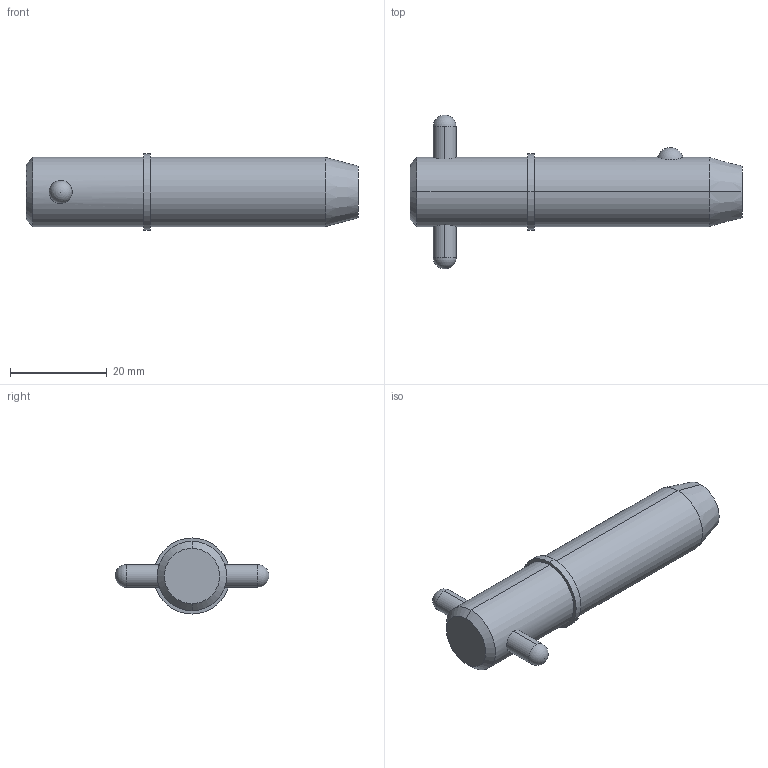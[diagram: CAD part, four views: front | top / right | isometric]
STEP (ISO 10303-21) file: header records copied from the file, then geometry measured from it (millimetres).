
FILE_DESCRIPTION (( 'STEP AP203' ), '1' );
FILE_NAME ('33018.W5610.step', '2024-11-19T17:16:15', ( '' ), ( '' ), 'SwSTEP 2.0', 'SolidWorks 2019', '' );
FILE_SCHEMA (( 'CONFIG_CONTROL_DESIGN' ));
Length unit declared in the file: millimetre
Products named in the file (3): 33018.W5610; Part2_33018.W5610; Part1_33018.W5610
Assembly tree (2 placements, depth 2):
  33018.W5610
    Part1_33018.W5610
    Part2_33018.W5610
Bounding box: 68.55 x 31.75 x 15.72 mm (x, y, z)
Volume: 11069.9 mm3; surface area: 3995.8 mm2
Topology: 2 solids, 2 shells, 22 faces, 47 edges, 30 vertices
Faces by surface type: cylinder 10, sphere 4, cone 4, plane 4
Entity records: 1033 total; most frequent: CARTESIAN_POINT 276, DIRECTION 110, ORIENTED_EDGE 82, AXIS2_PLACEMENT_3D 48, EDGE_CURVE 41, EDGE_LOOP 27, PERSON_AND_ORGANIZATION 26, VERTEX_POINT 26
